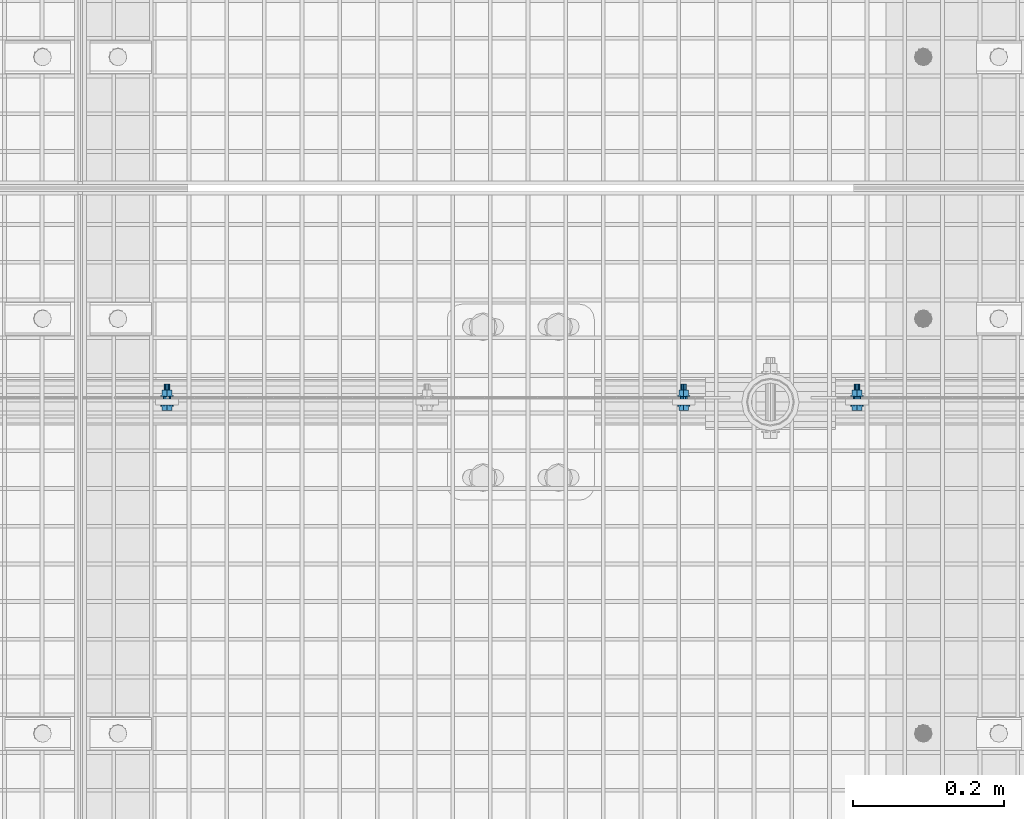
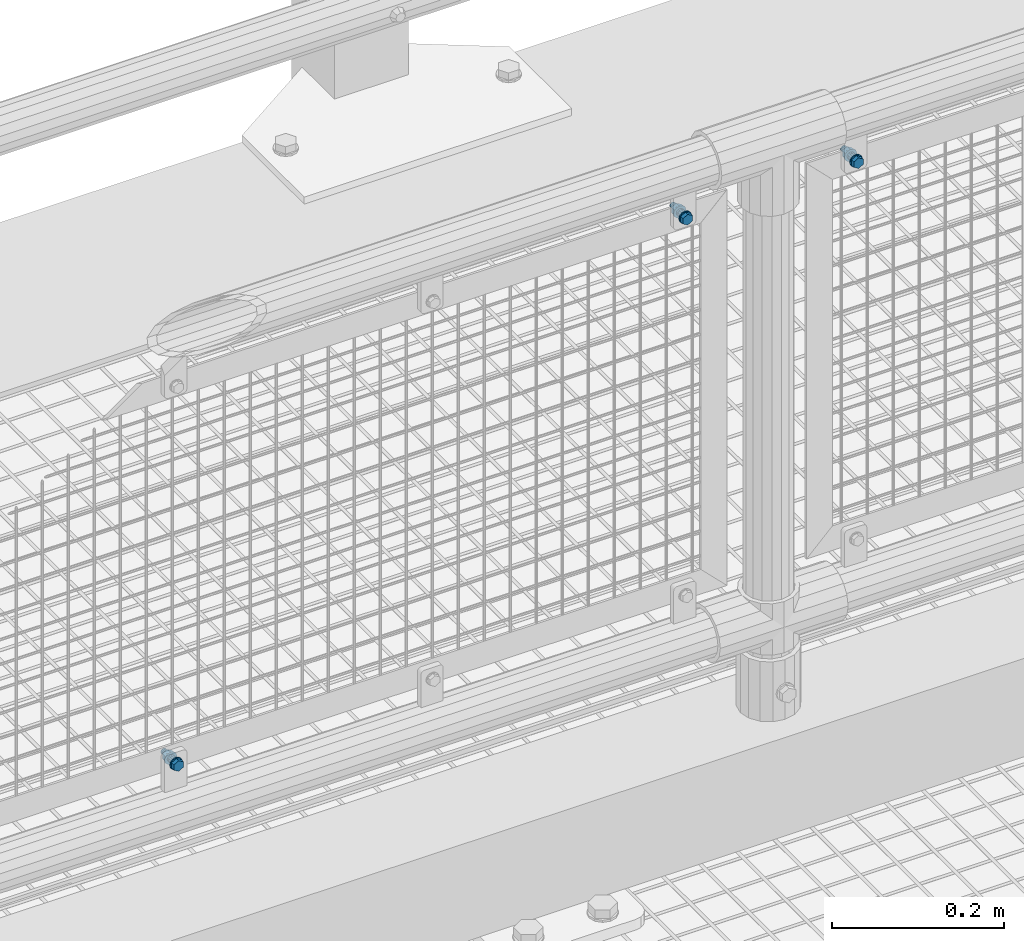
# One storey, part 77 of 1530: 3 mechanical fasteners.
"""IFC2X3 building model written with IfcOpenShell, lengths in millimetres."""

from ifc_helpers import new_model, si_unit, frame, origin_with_axes, place, context, subcontext, project, spatial, faceted_brep, source, transform, mapped, material, type_object, element, save


model = new_model("IFC2X3")

# Units and contexts
model_context = context("Model", 3, precision=1e-05, world=origin_with_axes())
body_context = subcontext(model_context, "Body", "Model", "MODEL_VIEW")
ifc_project = project(units=[si_unit("LENGTHUNIT", "METRE", prefix="MILLI"), si_unit("AREAUNIT", "SQUARE_METRE"), si_unit("VOLUMEUNIT", "CUBIC_METRE"), si_unit("MASSUNIT", "GRAM", prefix="KILO"), si_unit("TIMEUNIT", "SECOND"), si_unit("PLANEANGLEUNIT", "RADIAN"), si_unit("SOLIDANGLEUNIT", "STERADIAN"), si_unit("THERMODYNAMICTEMPERATUREUNIT", "DEGREE_CELSIUS"), si_unit("LUMINOUSINTENSITYUNIT", "LUMEN")], contexts=[model_context])

# Site, building, storey
site_placement = place(None, origin_with_axes())
site = spatial("IfcSite", under=ifc_project, at=site_placement, Name="Brattvåg", CompositionType="ELEMENT")
building_placement = place(site_placement, origin_with_axes())
building = spatial("IfcBuilding", under=site, at=building_placement, Name="Undefined", CompositionType="ELEMENT")
storey_placement = place(building_placement, origin_with_axes())
storey = spatial("IfcBuildingStorey", under=building, at=storey_placement, Name="Undefined", CompositionType="ELEMENT", Elevation=0.0)

# Mechanical fasteners
ifc_material = material(Name="8")
mechanical_fastener_type = type_object("IfcMechanicalFastenerType", Name="Bolt assembly")
shared_shape_1 = source(origin_with_axes(), body_context, "Body", "Brep", [
    faceted_brep([(7.50555349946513, -6.90000021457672, 0.0), (3.75277674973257, -6.90000021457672, 6.5), (-3.75277674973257, -6.90000021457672, 6.5), (-7.50555349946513, -6.90000021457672, 9.19165206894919e-16), (-3.75277674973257, -6.90000021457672, -6.5), (3.75277674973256, -6.90000021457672, -6.5), (3.75277674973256, -1.60000002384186, -6.5), (-3.75277674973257, -1.60000002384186, -6.5), (-7.50555349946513, -1.60000002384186, 9.19165206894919e-16), (-3.75277674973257, -1.60000002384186, 6.5), (3.75277674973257, -1.60000002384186, 6.5), (7.50555349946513, -1.60000002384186, 0.0), (4.0, -1.60000002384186, 0.0), (3.46410161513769, -1.60000002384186, 2.00000000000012), (1.99999999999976, -1.60000002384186, 3.46410161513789), (-4.14534392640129e-13, -1.60000002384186, 4.0), (-2.00000000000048, -1.60000002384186, 3.46410161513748), (-3.4641016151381, -1.60000002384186, 1.9999999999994), (-4.0, -1.60000002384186, -8.29068785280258e-13), (-3.46410161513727, -1.60000002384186, -2.00000000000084), (-1.99999999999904, -1.60000002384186, -3.46410161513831), (1.23916228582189e-12, -1.60000002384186, -4.0), (2.00000000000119, -1.60000002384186, -3.46410161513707), (3.46410161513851, -1.60000002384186, -1.99999999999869), (3.46410161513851, 28.3999999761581, -1.99999999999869), (2.00000000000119, 28.3999999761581, -3.46410161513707), (1.23916228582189e-12, 28.3999999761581, -4.0), (-1.99999999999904, 28.3999999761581, -3.46410161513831), (-3.46410161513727, 28.3999999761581, -2.00000000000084), (-4.0, 28.3999999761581, -8.29068785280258e-13), (-3.4641016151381, 28.3999999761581, 1.9999999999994), (-2.00000000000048, 28.3999999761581, 3.46410161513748), (-4.14534392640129e-13, 28.3999999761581, 4.0), (1.99999999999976, 28.3999999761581, 3.46410161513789), (3.46410161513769, 28.3999999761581, 2.00000000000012), (4.0, 28.3999999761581, 0.0), (8.5, -1.60000002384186, 0.0), (7.36121593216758, -1.60000002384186, 4.25000000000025), (4.24999999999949, -1.60000002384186, 7.36121593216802), (-8.80885584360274e-13, -1.60000002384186, 8.5), (-4.25000000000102, -1.60000002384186, 7.36121593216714), (-7.36121593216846, -1.60000002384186, 4.24999999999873), (-8.5, -1.60000002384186, -1.76177116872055e-12), (-7.3612159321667, -1.60000002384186, -4.25000000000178), (-4.24999999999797, -1.60000002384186, -7.3612159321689), (2.63321985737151e-12, -1.60000002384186, -8.5), (4.25000000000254, -1.60000002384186, -7.36121593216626), (7.36121593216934, -1.60000002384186, -4.24999999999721), (7.36121593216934, 0.0, -4.24999999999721), (4.25000000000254, 0.0, -7.36121593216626), (2.63321985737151e-12, 0.0, -8.5), (-4.24999999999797, 0.0, -7.3612159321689), (-7.3612159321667, 0.0, -4.25000000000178), (-8.5, 0.0, -1.76177116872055e-12), (-7.36121593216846, 0.0, 4.24999999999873), (-4.25000000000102, 0.0, 7.36121593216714), (-8.80885584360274e-13, 0.0, 8.5), (4.24999999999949, 0.0, 7.36121593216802), (7.36121593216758, 0.0, 4.25000000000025), (8.5, 0.0, 0.0), (8.5, 11.5015258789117, 0.0), (7.36121593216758, 11.5015258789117, 4.25000000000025), (4.24999999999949, 11.5015258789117, 7.36121593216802), (-8.80885584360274e-13, 11.5015258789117, 8.5), (-4.25000000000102, 11.5015258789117, 7.36121593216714), (-7.36121593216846, 11.5015258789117, 4.24999999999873), (-8.5, 11.5015258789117, -1.76177116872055e-12), (-7.3612159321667, 11.5015258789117, -4.25000000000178), (-4.24999999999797, 11.5015258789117, -7.3612159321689), (2.63321985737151e-12, 11.5015258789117, -8.5), (4.25000000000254, 11.5015258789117, -7.36121593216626), (7.36121593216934, 11.5015258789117, -4.24999999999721), (7.36121593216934, 13.1015259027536, -4.24999999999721), (4.25000000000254, 13.1015259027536, -7.36121593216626), (2.63321985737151e-12, 13.1015259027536, -8.5), (-4.24999999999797, 13.1015259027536, -7.3612159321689), (-7.3612159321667, 13.1015259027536, -4.25000000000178), (-8.5, 13.1015259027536, -1.76177116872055e-12), (-7.36121593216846, 13.1015259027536, 4.24999999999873), (-4.25000000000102, 13.1015259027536, 7.36121593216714), (-8.80885584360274e-13, 13.1015259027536, 8.5), (4.24999999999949, 13.1015259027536, 7.36121593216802), (7.36121593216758, 13.1015259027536, 4.25000000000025), (8.5, 13.1015259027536, 0.0), (7.50555349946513, 13.1015259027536, 0.0), (3.75277674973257, 13.1015259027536, 6.5), (-3.75277674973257, 13.1015259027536, 6.5), (-7.50555349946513, 13.1015259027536, 9.19165206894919e-16), (-3.75277674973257, 13.1015259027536, -6.5), (3.75277674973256, 13.1015259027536, -6.5), (3.75277674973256, 19.9015260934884, -6.5), (-3.75277674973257, 19.9015260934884, -6.5), (-7.50555349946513, 19.9015260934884, 9.19165206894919e-16), (-3.75277674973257, 19.9015260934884, 6.5), (3.75277674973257, 19.9015260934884, 6.5), (7.50555349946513, 19.9015260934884, 0.0)], [[[0, 1, 2, 3, 4, 5]], [[6, 7, 8, 9, 10, 11]], [[0, 11, 10, 1]], [[1, 10, 9, 2]], [[2, 9, 8, 3]], [[3, 8, 7, 4]], [[4, 7, 6, 5]], [[5, 6, 11, 0]], [[12, 13, 14, 15, 16, 17, 18, 19, 20, 21, 22, 23]], [[24, 25, 26, 27, 28, 29, 30, 31, 32, 33, 34, 35]], [[12, 35, 34, 13]], [[13, 34, 33, 14]], [[14, 33, 32, 15]], [[15, 32, 31, 16]], [[16, 31, 30, 17]], [[17, 30, 29, 18]], [[18, 29, 28, 19]], [[19, 28, 27, 20]], [[20, 27, 26, 21]], [[21, 26, 25, 22]], [[22, 25, 24, 23]], [[23, 24, 35, 12]], [[36, 37, 38, 39, 40, 41, 42, 43, 44, 45, 46, 47]], [[48, 49, 50, 51, 52, 53, 54, 55, 56, 57, 58, 59]], [[36, 59, 58, 37]], [[37, 58, 57, 38]], [[38, 57, 56, 39]], [[39, 56, 55, 40]], [[40, 55, 54, 41]], [[41, 54, 53, 42]], [[42, 53, 52, 43]], [[43, 52, 51, 44]], [[44, 51, 50, 45]], [[45, 50, 49, 46]], [[46, 49, 48, 47]], [[47, 48, 59, 36]], [[60, 61, 62, 63, 64, 65, 66, 67, 68, 69, 70, 71]], [[72, 73, 74, 75, 76, 77, 78, 79, 80, 81, 82, 83]], [[60, 83, 82, 61]], [[61, 82, 81, 62]], [[62, 81, 80, 63]], [[63, 80, 79, 64]], [[64, 79, 78, 65]], [[65, 78, 77, 66]], [[66, 77, 76, 67]], [[67, 76, 75, 68]], [[68, 75, 74, 69]], [[69, 74, 73, 70]], [[70, 73, 72, 71]], [[71, 72, 83, 60]], [[84, 85, 86, 87, 88, 89]], [[90, 91, 92, 93, 94, 95]], [[84, 95, 94, 85]], [[85, 94, 93, 86]], [[86, 93, 92, 87]], [[87, 92, 91, 88]], [[88, 91, 90, 89]], [[89, 90, 95, 84]]]),
    faceted_brep([(5.0, 0.1, 0.0), (4.33012701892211, 0.1, 2.50000000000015), (2.4999999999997, 0.1, 4.33012701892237), (-5.18167990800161e-13, 0.1, 5.0), (-2.5000000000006, 0.1, 4.33012701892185), (-4.33012701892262, 0.1, 2.49999999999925), (-5.0, 0.1, -1.03633598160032e-12), (-4.33012701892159, 0.1, -2.50000000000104), (-2.49999999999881, 0.1, -4.33012701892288), (1.54895285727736e-12, 0.1, -5.0), (2.50000000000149, 0.1, -4.33012701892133), (4.33012701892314, 0.1, -2.49999999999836), (4.33012701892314, 8.1, -2.49999999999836), (2.50000000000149, 8.1, -4.33012701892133), (1.54895285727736e-12, 8.1, -5.0), (-2.49999999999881, 8.1, -4.33012701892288), (-4.33012701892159, 8.1, -2.50000000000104), (-5.0, 8.1, -1.03633598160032e-12), (-4.33012701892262, 8.1, 2.49999999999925), (-2.5000000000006, 8.1, 4.33012701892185), (-5.18167990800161e-13, 8.1, 5.0), (2.4999999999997, 8.1, 4.33012701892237), (4.33012701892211, 8.1, 2.50000000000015), (5.0, 8.1, 0.0), (5.0, 8.40152587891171, 0.0), (4.33012701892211, 8.40152587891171, 2.50000000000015), (2.4999999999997, 8.40152587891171, 4.33012701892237), (-5.18167990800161e-13, 8.40152587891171, 5.0), (-2.5000000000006, 8.40152587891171, 4.33012701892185), (-4.33012701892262, 8.40152587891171, 2.49999999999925), (-5.0, 8.40152587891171, -1.03633598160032e-12), (-4.33012701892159, 8.40152587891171, -2.50000000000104), (-2.49999999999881, 8.40152587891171, -4.33012701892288), (1.54895285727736e-12, 8.40152587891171, -5.0), (2.50000000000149, 8.40152587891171, -4.33012701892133), (4.33012701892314, 8.40152587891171, -2.49999999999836), (4.33012701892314, 11.5015258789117, -2.49999999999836), (2.50000000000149, 11.5015258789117, -4.33012701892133), (1.54895285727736e-12, 11.5015258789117, -5.0), (-2.49999999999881, 11.5015258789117, -4.33012701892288), (-4.33012701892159, 11.5015258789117, -2.50000000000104), (-5.0, 11.5015258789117, -1.03633598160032e-12), (-4.33012701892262, 11.5015258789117, 2.49999999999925), (-2.5000000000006, 11.5015258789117, 4.33012701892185), (-5.18167990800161e-13, 11.5015258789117, 5.0), (2.4999999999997, 11.5015258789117, 4.33012701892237), (4.33012701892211, 11.5015258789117, 2.50000000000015), (5.0, 11.5015258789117, 0.0)], [[[0, 1, 2, 3, 4, 5, 6, 7, 8, 9, 10, 11]], [[12, 13, 14, 15, 16, 17, 18, 19, 20, 21, 22, 23]], [[0, 23, 22, 1]], [[1, 22, 21, 2]], [[2, 21, 20, 3]], [[3, 20, 19, 4]], [[4, 19, 18, 5]], [[5, 18, 17, 6]], [[6, 17, 16, 7]], [[7, 16, 15, 8]], [[8, 15, 14, 9]], [[9, 14, 13, 10]], [[10, 13, 12, 11]], [[11, 12, 23, 0]], [[24, 25, 26, 27, 28, 29, 30, 31, 32, 33, 34, 35]], [[36, 37, 38, 39, 40, 41, 42, 43, 44, 45, 46, 47]], [[24, 47, 46, 25]], [[25, 46, 45, 26]], [[26, 45, 44, 27]], [[27, 44, 43, 28]], [[28, 43, 42, 29]], [[29, 42, 41, 30]], [[30, 41, 40, 31]], [[31, 40, 39, 32]], [[32, 39, 38, 33]], [[33, 38, 37, 34]], [[34, 37, 36, 35]], [[35, 36, 47, 24]]]),
])
mechanical_fastener_1_placement = place(storey_placement, frame((3935.85095214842, 7660.49950027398, 889.680069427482), z_axis=(-1.0, 1.99999855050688e-09, 0.0), x_axis=(0.0, 0.0, 1.0)))
element("IfcMechanicalFastener", 1, at=mechanical_fastener_1_placement, inside=storey, type_object=mechanical_fastener_type, material=ifc_material, Name="Bolt assembly", NominalDiameter=8.0, NominalLength=30.0, context=body_context, shape_type="MappedRepresentation", body=[
    mapped(shared_shape_1, transform((0.0, 0.0, 0.0))),
])
shared_shape_2 = source(origin_with_axes(), body_context, "Body", "Brep", [
    faceted_brep([(7.50555349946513, -6.90000021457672, 0.0), (3.75277674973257, -6.90000021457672, 6.5), (-3.75277674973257, -6.90000021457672, 6.5), (-7.50555349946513, -6.90000021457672, 9.19165206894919e-16), (-3.75277674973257, -6.90000021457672, -6.5), (3.75277674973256, -6.90000021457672, -6.5), (3.75277674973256, -1.60000002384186, -6.5), (-3.75277674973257, -1.60000002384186, -6.5), (-7.50555349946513, -1.60000002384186, 9.19165206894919e-16), (-3.75277674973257, -1.60000002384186, 6.5), (3.75277674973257, -1.60000002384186, 6.5), (7.50555349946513, -1.60000002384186, 0.0), (4.0, -1.60000002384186, 0.0), (3.46410161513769, -1.60000002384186, 2.00000000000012), (1.99999999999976, -1.60000002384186, 3.46410161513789), (-4.14534392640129e-13, -1.60000002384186, 4.0), (-2.00000000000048, -1.60000002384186, 3.46410161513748), (-3.4641016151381, -1.60000002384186, 1.9999999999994), (-4.0, -1.60000002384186, -8.29068785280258e-13), (-3.46410161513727, -1.60000002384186, -2.00000000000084), (-1.99999999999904, -1.60000002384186, -3.46410161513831), (1.23916228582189e-12, -1.60000002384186, -4.0), (2.00000000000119, -1.60000002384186, -3.46410161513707), (3.46410161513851, -1.60000002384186, -1.99999999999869), (3.46410161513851, 28.3999999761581, -1.99999999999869), (2.00000000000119, 28.3999999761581, -3.46410161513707), (1.23916228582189e-12, 28.3999999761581, -4.0), (-1.99999999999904, 28.3999999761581, -3.46410161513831), (-3.46410161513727, 28.3999999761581, -2.00000000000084), (-4.0, 28.3999999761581, -8.29068785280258e-13), (-3.4641016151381, 28.3999999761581, 1.9999999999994), (-2.00000000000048, 28.3999999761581, 3.46410161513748), (-4.14534392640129e-13, 28.3999999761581, 4.0), (1.99999999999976, 28.3999999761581, 3.46410161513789), (3.46410161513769, 28.3999999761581, 2.00000000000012), (4.0, 28.3999999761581, 0.0), (8.5, -1.60000002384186, 0.0), (7.36121593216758, -1.60000002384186, 4.25000000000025), (4.24999999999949, -1.60000002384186, 7.36121593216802), (-8.80885584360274e-13, -1.60000002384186, 8.5), (-4.25000000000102, -1.60000002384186, 7.36121593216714), (-7.36121593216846, -1.60000002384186, 4.24999999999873), (-8.5, -1.60000002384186, -1.76177116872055e-12), (-7.3612159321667, -1.60000002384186, -4.25000000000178), (-4.24999999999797, -1.60000002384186, -7.3612159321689), (2.63321985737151e-12, -1.60000002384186, -8.5), (4.25000000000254, -1.60000002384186, -7.36121593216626), (7.36121593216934, -1.60000002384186, -4.24999999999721), (7.36121593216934, 0.0, -4.24999999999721), (4.25000000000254, 0.0, -7.36121593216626), (2.63321985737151e-12, 0.0, -8.5), (-4.24999999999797, 0.0, -7.3612159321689), (-7.3612159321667, 0.0, -4.25000000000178), (-8.5, 0.0, -1.76177116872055e-12), (-7.36121593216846, 0.0, 4.24999999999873), (-4.25000000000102, 0.0, 7.36121593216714), (-8.80885584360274e-13, 0.0, 8.5), (4.24999999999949, 0.0, 7.36121593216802), (7.36121593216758, 0.0, 4.25000000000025), (8.5, 0.0, 0.0), (8.5, 11.5021362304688, 0.0), (7.36121593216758, 11.5021362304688, 4.25000000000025), (4.24999999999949, 11.5021362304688, 7.36121593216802), (-8.80885584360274e-13, 11.5021362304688, 8.5), (-4.25000000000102, 11.5021362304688, 7.36121593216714), (-7.36121593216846, 11.5021362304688, 4.24999999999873), (-8.5, 11.5021362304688, -1.76177116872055e-12), (-7.3612159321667, 11.5021362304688, -4.25000000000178), (-4.24999999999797, 11.5021362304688, -7.3612159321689), (2.63321985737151e-12, 11.5021362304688, -8.5), (4.25000000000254, 11.5021362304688, -7.36121593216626), (7.36121593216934, 11.5021362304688, -4.24999999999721), (7.36121593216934, 13.1021362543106, -4.24999999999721), (4.25000000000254, 13.1021362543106, -7.36121593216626), (2.63321985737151e-12, 13.1021362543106, -8.5), (-4.24999999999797, 13.1021362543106, -7.3612159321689), (-7.3612159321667, 13.1021362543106, -4.25000000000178), (-8.5, 13.1021362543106, -1.76177116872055e-12), (-7.36121593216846, 13.1021362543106, 4.24999999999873), (-4.25000000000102, 13.1021362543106, 7.36121593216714), (-8.80885584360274e-13, 13.1021362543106, 8.5), (4.24999999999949, 13.1021362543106, 7.36121593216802), (7.36121593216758, 13.1021362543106, 4.25000000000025), (8.5, 13.1021362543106, 0.0), (7.50555349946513, 13.1021362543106, 0.0), (3.75277674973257, 13.1021362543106, 6.5), (-3.75277674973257, 13.1021362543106, 6.5), (-7.50555349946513, 13.1021362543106, 9.19165206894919e-16), (-3.75277674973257, 13.1021362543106, -6.5), (3.75277674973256, 13.1021362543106, -6.5), (3.75277674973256, 19.9021364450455, -6.5), (-3.75277674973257, 19.9021364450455, -6.5), (-7.50555349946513, 19.9021364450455, 9.19165206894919e-16), (-3.75277674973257, 19.9021364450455, 6.5), (3.75277674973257, 19.9021364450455, 6.5), (7.50555349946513, 19.9021364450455, 0.0)], [[[0, 1, 2, 3, 4, 5]], [[6, 7, 8, 9, 10, 11]], [[0, 11, 10, 1]], [[1, 10, 9, 2]], [[2, 9, 8, 3]], [[3, 8, 7, 4]], [[4, 7, 6, 5]], [[5, 6, 11, 0]], [[12, 13, 14, 15, 16, 17, 18, 19, 20, 21, 22, 23]], [[24, 25, 26, 27, 28, 29, 30, 31, 32, 33, 34, 35]], [[12, 35, 34, 13]], [[13, 34, 33, 14]], [[14, 33, 32, 15]], [[15, 32, 31, 16]], [[16, 31, 30, 17]], [[17, 30, 29, 18]], [[18, 29, 28, 19]], [[19, 28, 27, 20]], [[20, 27, 26, 21]], [[21, 26, 25, 22]], [[22, 25, 24, 23]], [[23, 24, 35, 12]], [[36, 37, 38, 39, 40, 41, 42, 43, 44, 45, 46, 47]], [[48, 49, 50, 51, 52, 53, 54, 55, 56, 57, 58, 59]], [[36, 59, 58, 37]], [[37, 58, 57, 38]], [[38, 57, 56, 39]], [[39, 56, 55, 40]], [[40, 55, 54, 41]], [[41, 54, 53, 42]], [[42, 53, 52, 43]], [[43, 52, 51, 44]], [[44, 51, 50, 45]], [[45, 50, 49, 46]], [[46, 49, 48, 47]], [[47, 48, 59, 36]], [[60, 61, 62, 63, 64, 65, 66, 67, 68, 69, 70, 71]], [[72, 73, 74, 75, 76, 77, 78, 79, 80, 81, 82, 83]], [[60, 83, 82, 61]], [[61, 82, 81, 62]], [[62, 81, 80, 63]], [[63, 80, 79, 64]], [[64, 79, 78, 65]], [[65, 78, 77, 66]], [[66, 77, 76, 67]], [[67, 76, 75, 68]], [[68, 75, 74, 69]], [[69, 74, 73, 70]], [[70, 73, 72, 71]], [[71, 72, 83, 60]], [[84, 85, 86, 87, 88, 89]], [[90, 91, 92, 93, 94, 95]], [[84, 95, 94, 85]], [[85, 94, 93, 86]], [[86, 93, 92, 87]], [[87, 92, 91, 88]], [[88, 91, 90, 89]], [[89, 90, 95, 84]]]),
    faceted_brep([(5.0, 0.1, 0.0), (4.33012701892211, 0.1, 2.50000000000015), (2.4999999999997, 0.1, 4.33012701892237), (-5.18167990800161e-13, 0.1, 5.0), (-2.5000000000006, 0.1, 4.33012701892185), (-4.33012701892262, 0.1, 2.49999999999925), (-5.0, 0.1, -1.03633598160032e-12), (-4.33012701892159, 0.1, -2.50000000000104), (-2.49999999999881, 0.1, -4.33012701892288), (1.54895285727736e-12, 0.1, -5.0), (2.50000000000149, 0.1, -4.33012701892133), (4.33012701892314, 0.1, -2.49999999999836), (4.33012701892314, 8.1, -2.49999999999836), (2.50000000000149, 8.1, -4.33012701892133), (1.54895285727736e-12, 8.1, -5.0), (-2.49999999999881, 8.1, -4.33012701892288), (-4.33012701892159, 8.1, -2.50000000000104), (-5.0, 8.1, -1.03633598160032e-12), (-4.33012701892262, 8.1, 2.49999999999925), (-2.5000000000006, 8.1, 4.33012701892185), (-5.18167990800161e-13, 8.1, 5.0), (2.4999999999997, 8.1, 4.33012701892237), (4.33012701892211, 8.1, 2.50000000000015), (5.0, 8.1, 0.0), (5.0, 8.40213623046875, 0.0), (4.33012701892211, 8.40213623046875, 2.50000000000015), (2.4999999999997, 8.40213623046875, 4.33012701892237), (-5.18167990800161e-13, 8.40213623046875, 5.0), (-2.5000000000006, 8.40213623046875, 4.33012701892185), (-4.33012701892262, 8.40213623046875, 2.49999999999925), (-5.0, 8.40213623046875, -1.03633598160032e-12), (-4.33012701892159, 8.40213623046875, -2.50000000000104), (-2.49999999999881, 8.40213623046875, -4.33012701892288), (1.54895285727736e-12, 8.40213623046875, -5.0), (2.50000000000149, 8.40213623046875, -4.33012701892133), (4.33012701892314, 8.40213623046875, -2.49999999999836), (4.33012701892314, 11.5021362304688, -2.49999999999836), (2.50000000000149, 11.5021362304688, -4.33012701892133), (1.54895285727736e-12, 11.5021362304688, -5.0), (-2.49999999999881, 11.5021362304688, -4.33012701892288), (-4.33012701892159, 11.5021362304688, -2.50000000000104), (-5.0, 11.5021362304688, -1.03633598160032e-12), (-4.33012701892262, 11.5021362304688, 2.49999999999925), (-2.5000000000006, 11.5021362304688, 4.33012701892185), (-5.18167990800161e-13, 11.5021362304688, 5.0), (2.4999999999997, 11.5021362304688, 4.33012701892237), (4.33012701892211, 11.5021362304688, 2.50000000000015), (5.0, 11.5021362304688, 0.0)], [[[0, 1, 2, 3, 4, 5, 6, 7, 8, 9, 10, 11]], [[12, 13, 14, 15, 16, 17, 18, 19, 20, 21, 22, 23]], [[0, 23, 22, 1]], [[1, 22, 21, 2]], [[2, 21, 20, 3]], [[3, 20, 19, 4]], [[4, 19, 18, 5]], [[5, 18, 17, 6]], [[6, 17, 16, 7]], [[7, 16, 15, 8]], [[8, 15, 14, 9]], [[9, 14, 13, 10]], [[10, 13, 12, 11]], [[11, 12, 23, 0]], [[24, 25, 26, 27, 28, 29, 30, 31, 32, 33, 34, 35]], [[36, 37, 38, 39, 40, 41, 42, 43, 44, 45, 46, 47]], [[24, 47, 46, 25]], [[25, 46, 45, 26]], [[26, 45, 44, 27]], [[27, 44, 43, 28]], [[28, 43, 42, 29]], [[29, 42, 41, 30]], [[30, 41, 40, 31]], [[31, 40, 39, 32]], [[32, 39, 38, 33]], [[33, 38, 37, 34]], [[34, 37, 36, 35]], [[35, 36, 47, 24]]]),
])
mechanical_fastener_2_placement = place(storey_placement, frame((3706.00009155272, 7660.49888992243, 889.679782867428), z_axis=(-1.0, 1.99999855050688e-09, 0.0), x_axis=(0.0, 0.0, 1.0)))
element("IfcMechanicalFastener", 2, at=mechanical_fastener_2_placement, inside=storey, type_object=mechanical_fastener_type, material=ifc_material, Name="Bolt assembly", NominalDiameter=8.0, NominalLength=30.0, context=body_context, shape_type="MappedRepresentation", body=[
    mapped(shared_shape_2, transform((0.0, 0.0, 0.0))),
])
shared_shape_3 = source(origin_with_axes(), body_context, "Body", "Brep", [
    faceted_brep([(7.50555349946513, -6.899000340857, 0.0), (3.75277674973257, -6.899000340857, 6.5), (-3.75277674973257, -6.899000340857, 6.5), (-7.50555349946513, -6.899000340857, 9.19165206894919e-16), (-3.75277674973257, -6.899000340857, -6.5), (3.75277674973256, -6.899000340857, -6.5), (3.75277674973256, -1.59900015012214, -6.5), (-3.75277674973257, -1.59900015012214, -6.5), (-7.50555349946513, -1.59900015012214, 9.19165206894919e-16), (-3.75277674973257, -1.59900015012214, 6.5), (3.75277674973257, -1.59900015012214, 6.5), (7.50555349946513, -1.59900015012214, 0.0), (4.0, -1.59900015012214, 0.0), (3.46410161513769, -1.59900015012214, 2.00000000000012), (1.99999999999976, -1.59900015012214, 3.46410161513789), (-4.14534392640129e-13, -1.59900015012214, 4.0), (-2.00000000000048, -1.59900015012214, 3.46410161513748), (-3.4641016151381, -1.59900015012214, 1.9999999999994), (-4.0, -1.59900015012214, -8.29068785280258e-13), (-3.46410161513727, -1.59900015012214, -2.00000000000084), (-1.99999999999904, -1.59900015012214, -3.46410161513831), (1.23916228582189e-12, -1.59900015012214, -4.0), (2.00000000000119, -1.59900015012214, -3.46410161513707), (3.46410161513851, -1.59900015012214, -1.99999999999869), (3.46410161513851, 28.4009998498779, -1.99999999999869), (2.00000000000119, 28.4009998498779, -3.46410161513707), (1.23916228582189e-12, 28.4009998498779, -4.0), (-1.99999999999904, 28.4009998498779, -3.46410161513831), (-3.46410161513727, 28.4009998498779, -2.00000000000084), (-4.0, 28.4009998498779, -8.29068785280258e-13), (-3.4641016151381, 28.4009998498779, 1.9999999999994), (-2.00000000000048, 28.4009998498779, 3.46410161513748), (-4.14534392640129e-13, 28.4009998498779, 4.0), (1.99999999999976, 28.4009998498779, 3.46410161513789), (3.46410161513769, 28.4009998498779, 2.00000000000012), (4.0, 28.4009998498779, 0.0), (8.5, -1.59900015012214, 0.0), (7.36121593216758, -1.59900015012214, 4.25000000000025), (4.24999999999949, -1.59900015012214, 7.36121593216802), (-8.80885584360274e-13, -1.59900015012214, 8.5), (-4.25000000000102, -1.59900015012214, 7.36121593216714), (-7.36121593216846, -1.59900015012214, 4.24999999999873), (-8.5, -1.59900015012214, -1.76177116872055e-12), (-7.3612159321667, -1.59900015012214, -4.25000000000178), (-4.24999999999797, -1.59900015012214, -7.3612159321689), (2.63321985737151e-12, -1.59900015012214, -8.5), (4.25000000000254, -1.59900015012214, -7.36121593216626), (7.36121593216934, -1.59900015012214, -4.24999999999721), (7.36121593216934, 0.000999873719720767, -4.24999999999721), (4.25000000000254, 0.000999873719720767, -7.36121593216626), (2.63321985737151e-12, 0.000999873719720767, -8.5), (-4.24999999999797, 0.000999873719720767, -7.3612159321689), (-7.3612159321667, 0.000999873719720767, -4.25000000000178), (-8.5, 0.000999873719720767, -1.76177116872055e-12), (-7.36121593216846, 0.000999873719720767, 4.24999999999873), (-4.25000000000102, 0.000999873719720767, 7.36121593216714), (-8.80885584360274e-13, 0.000999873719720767, 8.5), (4.24999999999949, 0.000999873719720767, 7.36121593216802), (7.36121593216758, 0.000999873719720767, 4.25000000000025), (8.5, 0.000999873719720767, 0.0), (8.5, 11.5035404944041, 0.0), (7.36121593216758, 11.5035404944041, 4.25000000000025), (4.24999999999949, 11.5035404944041, 7.36121593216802), (-8.80885584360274e-13, 11.5035404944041, 8.5), (-4.25000000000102, 11.5035404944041, 7.36121593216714), (-7.36121593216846, 11.5035404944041, 4.24999999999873), (-8.5, 11.5035404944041, -1.76177116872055e-12), (-7.3612159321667, 11.5035404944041, -4.25000000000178), (-4.24999999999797, 11.5035404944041, -7.3612159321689), (2.63321985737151e-12, 11.5035404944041, -8.5), (4.25000000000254, 11.5035404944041, -7.36121593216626), (7.36121593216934, 11.5035404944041, -4.24999999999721), (7.36121593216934, 13.1035405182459, -4.24999999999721), (4.25000000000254, 13.1035405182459, -7.36121593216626), (2.63321985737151e-12, 13.1035405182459, -8.5), (-4.24999999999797, 13.1035405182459, -7.3612159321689), (-7.3612159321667, 13.1035405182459, -4.25000000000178), (-8.5, 13.1035405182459, -1.76177116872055e-12), (-7.36121593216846, 13.1035405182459, 4.24999999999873), (-4.25000000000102, 13.1035405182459, 7.36121593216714), (-8.80885584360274e-13, 13.1035405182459, 8.5), (4.24999999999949, 13.1035405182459, 7.36121593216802), (7.36121593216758, 13.1035405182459, 4.25000000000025), (8.5, 13.1035405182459, 0.0), (7.50555349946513, 13.1035405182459, 0.0), (3.75277674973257, 13.1035405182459, 6.5), (-3.75277674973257, 13.1035405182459, 6.5), (-7.50555349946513, 13.1035405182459, 9.19165206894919e-16), (-3.75277674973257, 13.1035405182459, -6.5), (3.75277674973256, 13.1035405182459, -6.5), (3.75277674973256, 19.9035407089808, -6.5), (-3.75277674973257, 19.9035407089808, -6.5), (-7.50555349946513, 19.9035407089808, 9.19165206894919e-16), (-3.75277674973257, 19.9035407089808, 6.5), (3.75277674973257, 19.9035407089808, 6.5), (7.50555349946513, 19.9035407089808, 0.0)], [[[0, 1, 2, 3, 4, 5]], [[6, 7, 8, 9, 10, 11]], [[0, 11, 10, 1]], [[1, 10, 9, 2]], [[2, 9, 8, 3]], [[3, 8, 7, 4]], [[4, 7, 6, 5]], [[5, 6, 11, 0]], [[12, 13, 14, 15, 16, 17, 18, 19, 20, 21, 22, 23]], [[24, 25, 26, 27, 28, 29, 30, 31, 32, 33, 34, 35]], [[12, 35, 34, 13]], [[13, 34, 33, 14]], [[14, 33, 32, 15]], [[15, 32, 31, 16]], [[16, 31, 30, 17]], [[17, 30, 29, 18]], [[18, 29, 28, 19]], [[19, 28, 27, 20]], [[20, 27, 26, 21]], [[21, 26, 25, 22]], [[22, 25, 24, 23]], [[23, 24, 35, 12]], [[36, 37, 38, 39, 40, 41, 42, 43, 44, 45, 46, 47]], [[48, 49, 50, 51, 52, 53, 54, 55, 56, 57, 58, 59]], [[36, 59, 58, 37]], [[37, 58, 57, 38]], [[38, 57, 56, 39]], [[39, 56, 55, 40]], [[40, 55, 54, 41]], [[41, 54, 53, 42]], [[42, 53, 52, 43]], [[43, 52, 51, 44]], [[44, 51, 50, 45]], [[45, 50, 49, 46]], [[46, 49, 48, 47]], [[47, 48, 59, 36]], [[60, 61, 62, 63, 64, 65, 66, 67, 68, 69, 70, 71]], [[72, 73, 74, 75, 76, 77, 78, 79, 80, 81, 82, 83]], [[60, 83, 82, 61]], [[61, 82, 81, 62]], [[62, 81, 80, 63]], [[63, 80, 79, 64]], [[64, 79, 78, 65]], [[65, 78, 77, 66]], [[66, 77, 76, 67]], [[67, 76, 75, 68]], [[68, 75, 74, 69]], [[69, 74, 73, 70]], [[70, 73, 72, 71]], [[71, 72, 83, 60]], [[84, 85, 86, 87, 88, 89]], [[90, 91, 92, 93, 94, 95]], [[84, 95, 94, 85]], [[85, 94, 93, 86]], [[86, 93, 92, 87]], [[87, 92, 91, 88]], [[88, 91, 90, 89]], [[89, 90, 95, 84]]]),
    faceted_brep([(5.0, 0.100999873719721, 0.0), (4.33012701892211, 0.100999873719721, 2.50000000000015), (2.4999999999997, 0.100999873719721, 4.33012701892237), (-5.18167990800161e-13, 0.100999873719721, 5.0), (-2.5000000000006, 0.100999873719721, 4.33012701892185), (-4.33012701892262, 0.100999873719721, 2.49999999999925), (-5.0, 0.100999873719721, -1.03633598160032e-12), (-4.33012701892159, 0.100999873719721, -2.50000000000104), (-2.49999999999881, 0.100999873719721, -4.33012701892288), (1.54895285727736e-12, 0.100999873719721, -5.0), (2.50000000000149, 0.100999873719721, -4.33012701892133), (4.33012701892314, 0.100999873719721, -2.49999999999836), (4.33012701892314, 8.10099988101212, -2.49999999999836), (2.50000000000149, 8.10099988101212, -4.33012701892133), (1.54895285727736e-12, 8.10099988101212, -5.0), (-2.49999999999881, 8.10099988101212, -4.33012701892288), (-4.33012701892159, 8.10099988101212, -2.50000000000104), (-5.0, 8.10099988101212, -1.03633598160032e-12), (-4.33012701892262, 8.10099988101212, 2.49999999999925), (-2.5000000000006, 8.10099988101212, 4.33012701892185), (-5.18167990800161e-13, 8.10099988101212, 5.0), (2.4999999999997, 8.10099988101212, 4.33012701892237), (4.33012701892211, 8.10099988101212, 2.50000000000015), (5.0, 8.10099988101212, 0.0), (5.0, 8.40354049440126, 0.0), (4.33012701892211, 8.40354049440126, 2.50000000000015), (2.4999999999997, 8.40354049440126, 4.33012701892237), (-5.18167990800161e-13, 8.40354049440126, 5.0), (-2.5000000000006, 8.40354049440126, 4.33012701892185), (-4.33012701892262, 8.40354049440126, 2.49999999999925), (-5.0, 8.40354049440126, -1.03633598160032e-12), (-4.33012701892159, 8.40354049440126, -2.50000000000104), (-2.49999999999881, 8.40354049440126, -4.33012701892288), (1.54895285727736e-12, 8.40354049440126, -5.0), (2.50000000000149, 8.40354049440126, -4.33012701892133), (4.33012701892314, 8.40354049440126, -2.49999999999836), (4.33012701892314, 11.5035404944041, -2.49999999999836), (2.50000000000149, 11.5035404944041, -4.33012701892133), (1.54895285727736e-12, 11.5035404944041, -5.0), (-2.49999999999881, 11.5035404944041, -4.33012701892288), (-4.33012701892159, 11.5035404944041, -2.50000000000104), (-5.0, 11.5035404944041, -1.03633598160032e-12), (-4.33012701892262, 11.5035404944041, 2.49999999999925), (-2.5000000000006, 11.5035404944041, 4.33012701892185), (-5.18167990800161e-13, 11.5035404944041, 5.0), (2.4999999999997, 11.5035404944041, 4.33012701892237), (4.33012701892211, 11.5035404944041, 2.50000000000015), (5.0, 11.5035404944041, 0.0)], [[[0, 1, 2, 3, 4, 5, 6, 7, 8, 9, 10, 11]], [[12, 13, 14, 15, 16, 17, 18, 19, 20, 21, 22, 23]], [[0, 23, 22, 1]], [[1, 22, 21, 2]], [[2, 21, 20, 3]], [[3, 20, 19, 4]], [[4, 19, 18, 5]], [[5, 18, 17, 6]], [[6, 17, 16, 7]], [[7, 16, 15, 8]], [[8, 15, 14, 9]], [[9, 14, 13, 10]], [[10, 13, 12, 11]], [[11, 12, 23, 0]], [[24, 25, 26, 27, 28, 29, 30, 31, 32, 33, 34, 35]], [[36, 37, 38, 39, 40, 41, 42, 43, 44, 45, 46, 47]], [[24, 47, 46, 25]], [[25, 46, 45, 26]], [[26, 45, 44, 27]], [[27, 44, 43, 28]], [[28, 43, 42, 29]], [[29, 42, 41, 30]], [[30, 41, 40, 31]], [[31, 40, 39, 32]], [[32, 39, 38, 33]], [[33, 38, 37, 34]], [[34, 37, 36, 35]], [[35, 36, 47, 24]]]),
])
mechanical_fastener_3_placement = place(storey_placement, frame((3020.85007476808, 7660.49843978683, 352.299672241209), z_axis=(-1.0, 1.99999855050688e-09, 0.0), x_axis=(0.0, 0.0, 1.0)))
element("IfcMechanicalFastener", 3, at=mechanical_fastener_3_placement, inside=storey, type_object=mechanical_fastener_type, material=ifc_material, Name="Bolt assembly", NominalDiameter=8.0, NominalLength=30.0, context=body_context, shape_type="MappedRepresentation", body=[
    mapped(shared_shape_3, transform((0.0, 0.0, 0.0))),
])

save(model, "model.ifc")
